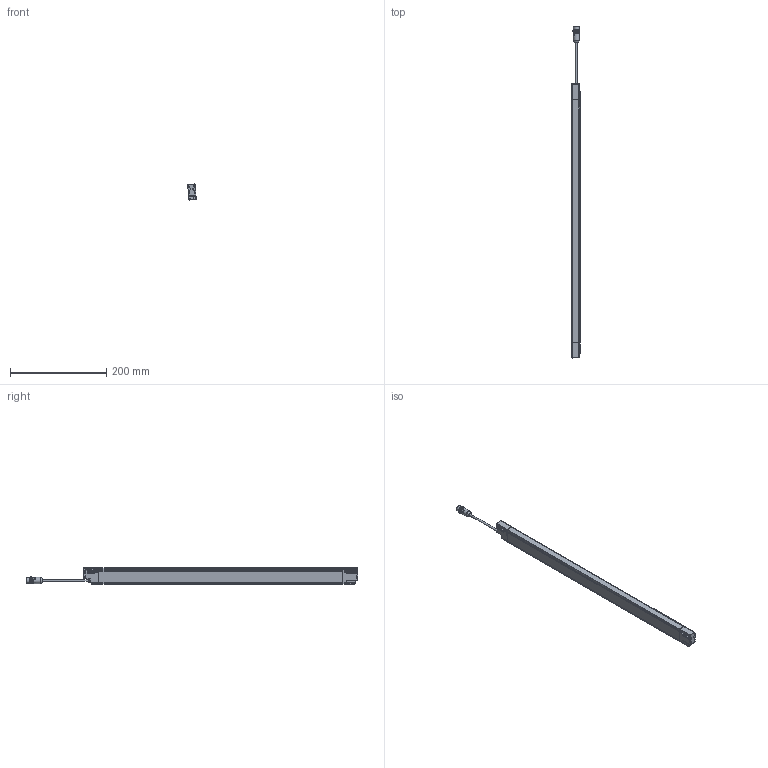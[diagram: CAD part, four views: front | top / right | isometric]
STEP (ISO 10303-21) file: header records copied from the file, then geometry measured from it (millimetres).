
FILE_DESCRIPTION(/* description */ (''),/* implementation_level */ '2;1');
FILE_NAME(/* name */ 'DSD-0634.stp',/* time_stamp */ '2015-02-23T17:15:41+01:00',/* author */ (''),/* organization */ (''),/* preprocessor_version */ 'ST-DEVELOPER v11',/* originating_system */ 'SIEMENS PLM Software NX 7.5',/* authorisation */ '');
FILE_SCHEMA (('AUTOMOTIVE_DESIGN { 1 0 10303 214 1 1 1 1 }'));
Length unit declared in the file: millimetre
Products named in the file (1): AP008113_00
Bounding box: 17.36 x 690.24 x 33.46 mm (x, y, z)
Surface area: 70262.7 mm2 (no closed solid volume)
Topology: 0 solids, 44 shells, 1078 faces, 3762 edges, 2587 vertices
Faces by surface type: cylinder 389, plane 320, bspline 152, torus 111, sphere 68, cone 38
Full cylindrical faces by diameter (mm): 1 x5, 1.2 x2, 2.6 x6, 4 x1, 8.3 x1, 9.4 x1, 10.4 x1, 12 x1, 13 x1, 13.5 x1, 14.5 x2
Entity records: 46583 total; most frequent: CARTESIAN_POINT 15107, DIRECTION 6719, ORIENTED_EDGE 5838, EDGE_CURVE 3644, VERTEX_POINT 2556, AXIS2_PLACEMENT_3D 2524, LINE 1671, VECTOR 1671
